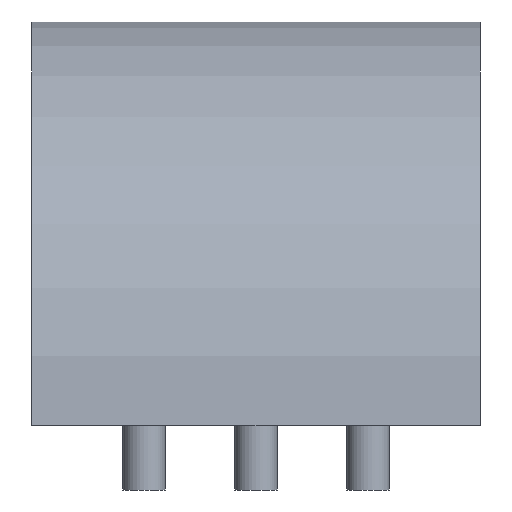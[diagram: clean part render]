
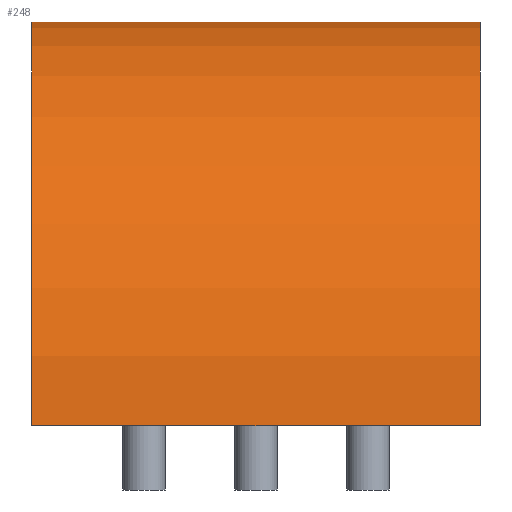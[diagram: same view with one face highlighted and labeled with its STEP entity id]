
A CAD part, front view. The second image highlights one B-rep face of the part: STEP entity #248.
In plain terms, the highlighted cylindrical face has radius 37.855 mm (diameter 75.711 mm), a partial arc.
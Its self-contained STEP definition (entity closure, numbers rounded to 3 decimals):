
#44=FACE_OUTER_BOUND('',#62,.T.);
#62=EDGE_LOOP('',(#201,#202,#203,#204));
#81=LINE('',#448,#95);
#82=LINE('',#450,#96);
#95=VECTOR('',#376,10.);
#96=VECTOR('',#377,10.);
#114=CIRCLE('',#302,37.855);
#115=CIRCLE('',#304,37.855);
#129=VERTEX_POINT('',#438);
#132=VERTEX_POINT('',#443);
#133=VERTEX_POINT('',#447);
#134=VERTEX_POINT('',#449);
#158=EDGE_CURVE('',#129,#132,#114,.T.);
#159=EDGE_CURVE('',#133,#129,#81,.T.);
#160=EDGE_CURVE('',#134,#132,#82,.T.);
#161=EDGE_CURVE('',#133,#134,#115,.T.);
#201=ORIENTED_EDGE('',*,*,#159,.T.);
#202=ORIENTED_EDGE('',*,*,#158,.T.);
#203=ORIENTED_EDGE('',*,*,#160,.F.);
#204=ORIENTED_EDGE('',*,*,#161,.F.);
#233=CYLINDRICAL_SURFACE('',#303,37.855);
#248=ADVANCED_FACE('',(#44),#233,.T.);
#302=AXIS2_PLACEMENT_3D('',#445,#372,#373);
#303=AXIS2_PLACEMENT_3D('',#446,#374,#375);
#304=AXIS2_PLACEMENT_3D('',#451,#378,#379);
#372=DIRECTION('center_axis',(1.,0.,0.));
#373=DIRECTION('ref_axis',(0.,1.,0.));
#374=DIRECTION('center_axis',(1.,0.,0.));
#375=DIRECTION('ref_axis',(0.,1.,0.));
#376=DIRECTION('',(-1.,0.,0.));
#377=DIRECTION('',(-1.,0.,0.));
#378=DIRECTION('center_axis',(1.,0.,0.));
#379=DIRECTION('ref_axis',(0.,1.,0.));
#438=CARTESIAN_POINT('',(6.5,3.928,0.));
#443=CARTESIAN_POINT('',(6.5,-71.783,0.));
#445=CARTESIAN_POINT('Origin',(6.5,-33.928,0.));
#446=CARTESIAN_POINT('Origin',(27.5,-33.928,0.));
#447=CARTESIAN_POINT('',(48.5,3.928,0.));
#448=CARTESIAN_POINT('',(48.5,3.928,0.));
#449=CARTESIAN_POINT('',(48.5,-71.783,0.));
#450=CARTESIAN_POINT('',(48.5,-71.783,0.));
#451=CARTESIAN_POINT('Origin',(48.5,-33.928,0.));
